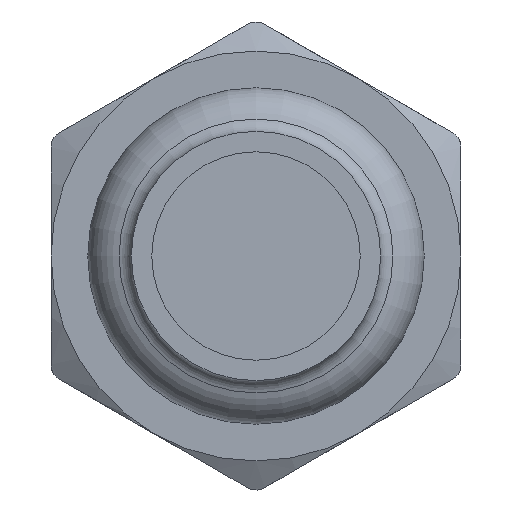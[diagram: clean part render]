
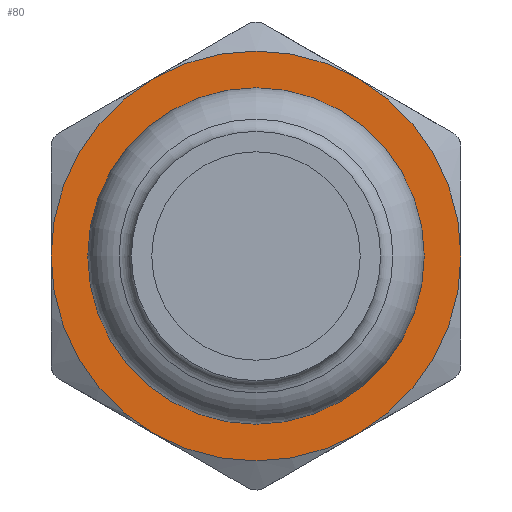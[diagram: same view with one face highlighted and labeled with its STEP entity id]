
A CAD part, front view. The second image highlights one B-rep face of the part: STEP entity #80.
In plain terms, the highlighted planar face has unit normal (0, -1, 0).
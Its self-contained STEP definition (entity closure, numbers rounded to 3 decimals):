
#80=ADVANCED_FACE('',(#287,#289),#291,.F.);
#287=FACE_BOUND('',#288,.T.);
#288=EDGE_LOOP('',(#510,#511,#512,#513,#514));
#289=FACE_BOUND('',#290,.T.);
#290=EDGE_LOOP('',(#515));
#291=PLANE('',#292);
#292=AXIS2_PLACEMENT_3D('',#293,#294,#295);
#293=CARTESIAN_POINT('',(0.,37.,0.));
#294=DIRECTION('',(0.,1.,0.));
#295=DIRECTION('',(-1.,0.,0.));
#510=ORIENTED_EDGE('',*,*,#601,.T.);
#511=ORIENTED_EDGE('',*,*,#600,.T.);
#512=ORIENTED_EDGE('',*,*,#599,.T.);
#513=ORIENTED_EDGE('',*,*,#598,.T.);
#514=ORIENTED_EDGE('',*,*,#597,.T.);
#515=ORIENTED_EDGE('',*,*,#602,.T.);
#597=EDGE_CURVE('',#670,#705,#709,.F.);
#598=EDGE_CURVE('',#679,#670,#710,.F.);
#599=EDGE_CURVE('',#687,#679,#711,.F.);
#600=EDGE_CURVE('',#697,#687,#712,.F.);
#601=EDGE_CURVE('',#705,#697,#713,.F.);
#602=EDGE_CURVE('',#714,#714,#715,.F.);
#670=VERTEX_POINT('',#1306);
#679=VERTEX_POINT('',#1436);
#687=VERTEX_POINT('',#1520);
#697=VERTEX_POINT('',#1608);
#705=VERTEX_POINT('',#1699);
#709=CIRCLE('',#1775,12.);
#710=CIRCLE('',#1779,12.);
#711=CIRCLE('',#1783,12.);
#712=CIRCLE('',#1787,12.);
#713=CIRCLE('',#1791,12.);
#714=VERTEX_POINT('',#1795);
#715=CIRCLE('',#1796,8.);
#1306=CARTESIAN_POINT('',(-12.,37.,0.));
#1436=CARTESIAN_POINT('',(-6.,37.,10.392));
#1520=CARTESIAN_POINT('',(6.,37.,10.392));
#1608=CARTESIAN_POINT('',(12.,37.,0.));
#1699=CARTESIAN_POINT('',(6.,37.,-10.392));
#1775=AXIS2_PLACEMENT_3D('',#1776,#1777,#1778);
#1776=CARTESIAN_POINT('',(0.,37.,0.));
#1777=DIRECTION('',(0.,1.,0.));
#1778=DIRECTION('',(0.5,0.,-0.866));
#1779=AXIS2_PLACEMENT_3D('',#1780,#1781,#1782);
#1780=CARTESIAN_POINT('',(0.,37.,0.));
#1781=DIRECTION('',(0.,1.,0.));
#1782=DIRECTION('',(-1.,0.,0.));
#1783=AXIS2_PLACEMENT_3D('',#1784,#1785,#1786);
#1784=CARTESIAN_POINT('',(0.,37.,0.));
#1785=DIRECTION('',(0.,1.,0.));
#1786=DIRECTION('',(-0.5,0.,0.866));
#1787=AXIS2_PLACEMENT_3D('',#1788,#1789,#1790);
#1788=CARTESIAN_POINT('',(0.,37.,0.));
#1789=DIRECTION('',(0.,1.,0.));
#1790=DIRECTION('',(0.5,0.,0.866));
#1791=AXIS2_PLACEMENT_3D('',#1792,#1793,#1794);
#1792=CARTESIAN_POINT('',(0.,37.,0.));
#1793=DIRECTION('',(0.,1.,0.));
#1794=DIRECTION('',(1.,0.,0.));
#1795=CARTESIAN_POINT('',(8.,37.,0.));
#1796=AXIS2_PLACEMENT_3D('',#1797,#1798,#1799);
#1797=CARTESIAN_POINT('',(0.,37.,0.));
#1798=DIRECTION('',(0.,-1.,0.));
#1799=DIRECTION('',(1.,0.,0.));
